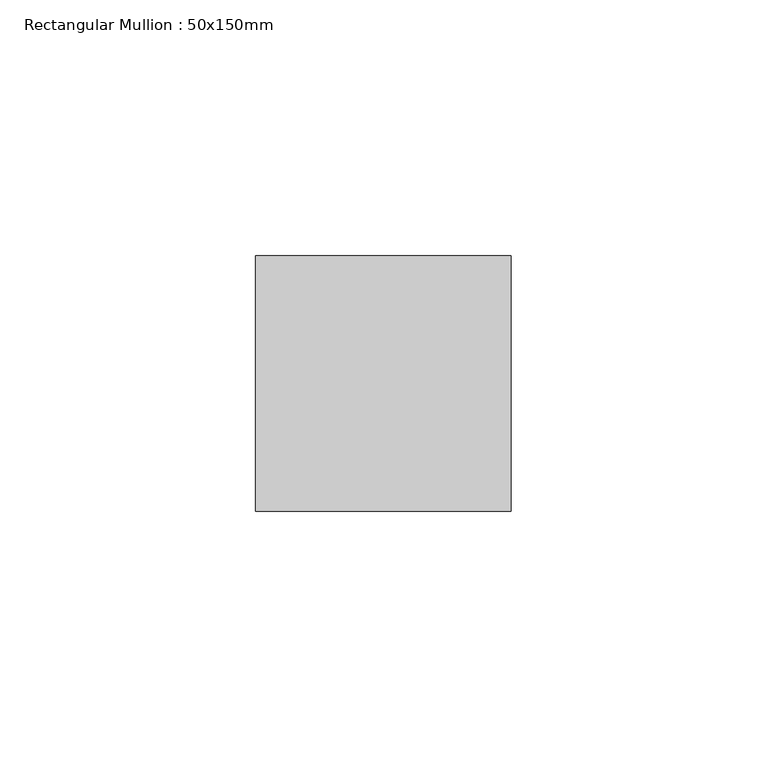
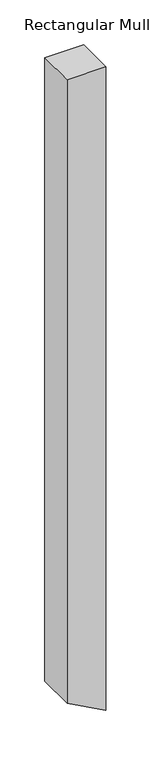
"""IFC4 building model written with IfcOpenShell, lengths in millimetres: member geometry, Rectangular Mullion : 50x150mm."""

from ifc_helpers import new_model, si_unit, frame, origin, place, context, project, spatial, polyline, outline, extrude, source, transform, mapped, element, save


def rectangular_mullion_50x150mm_19f53925(model_context):
    return source(origin(), model_context, "Body", "SweptSolid", [
        extrude(outline(polyline([(0.0, 25.0), (0.0, -25.0), (-850.2495998, -25.0), (-876.7565471, 23.8474698), (-877.3819645, 25.0), (0.0, 25.0)])), frame((0.0, -25.0, 0.0), z_axis=(0.0, 1.0, 0.0), x_axis=(0.0, 0.0, 1.0)), (0.0, 0.0, 1.0), 50.0),
    ])


if __name__ == "__main__":
    model = new_model("IFC4")
    model_context = context("Model", 3, world=origin())
    ifc_project = project(units=[si_unit("LENGTHUNIT", "METRE", prefix="MILLI")], contexts=[model_context])
    site = spatial("IfcSite", under=ifc_project)
    building = spatial("IfcBuilding", under=site)
    placement = place(None, origin())
    rectangular_mullion_50x150mm_shape = rectangular_mullion_50x150mm_19f53925(model_context)
    element("IfcMember", 1, ObjectType="Rectangular Mullion : 50x150mm", at=placement, inside=building, context=model_context, shape_type="MappedRepresentation", body=[
        mapped(rectangular_mullion_50x150mm_shape, transform((0.0, 0.0, 0.0), x_axis=(1.0, 0.0, 0.0), y_axis=(0.0, 1.0, 0.0), z_axis=(0.0, 0.0, 1.0))),
    ])
    save(model, "model.ifc")
